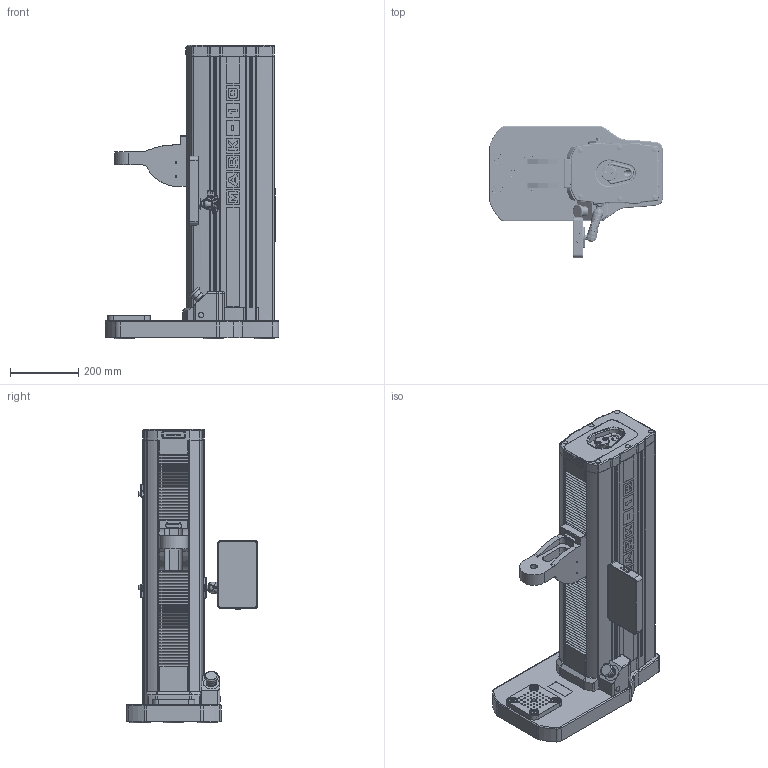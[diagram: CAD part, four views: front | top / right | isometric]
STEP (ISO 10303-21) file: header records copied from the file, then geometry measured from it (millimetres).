
FILE_DESCRIPTION(/* description */ (''),/* implementation_level */ '2;1');
FILE_NAME(/* name */ 'F:\CAD files\Itr\3D MARKETING MODELS\MOTORIZED TEST STANDS\FXXX5X\F1505S-EM\F1505S_EM.stp',/* time_stamp */ '2021-02-05T15:23:42-05:00',/* author */ ('dsollitt'),/* organization */ (''),/* preprocessor_version */ 'ST-DEVELOPER v18.1',/* originating_system */ 'AutoCAD Mechanical',/* authorisation */ '');
FILE_SCHEMA (('AUTOMOTIVE_DESIGN { 1 0 10303 214 3 1 1 }'));
Products named in the file (1): Product
Bounding box: 508 x 386.48 x 861.97 mm (x, y, z)
Volume: 41797757.6 mm3; surface area: 1852474.6 mm2
Topology: 6 solids, 14 shells, 8954 faces, 26561 edges, 18385 vertices
Faces by surface type: plane 7105, cylinder 1196, cone 250, bspline 171, torus 165, sphere 67
Full cylindrical faces by diameter (mm): 0.4 x1, 0.6 x1, 1.015 x2, 1.55 x4, 1.797 x2, 2 x2, 2.13 x1, 2.845 x8, 3.048 x8, 3.328 x1, 3.505 x2, 4.7 x24, 4.826 x48, 5.41 x10, 5.563 x2, 6 x2, 6.35 x39, 6.731 x4, 7.938 x4, 9.169 x4, 9.525 x6, 9.8 x1, 11.906 x2, 12.1 x1, 12.7 x3, 12.8 x2, 12.954 x4, 13.462 x2, 13.487 x4, 14.1 x1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
Entity records: 321022 total; most frequent: CARTESIAN_POINT 77710, ORIENTED_EDGE 53054, DIRECTION 46810, EDGE_CURVE 26527, LINE 22292, VECTOR 22292, VERTEX_POINT 18385, AXIS2_PLACEMENT_3D 12259
